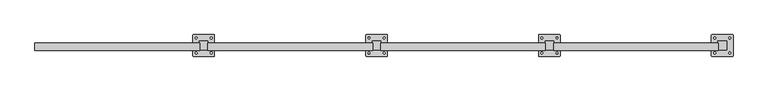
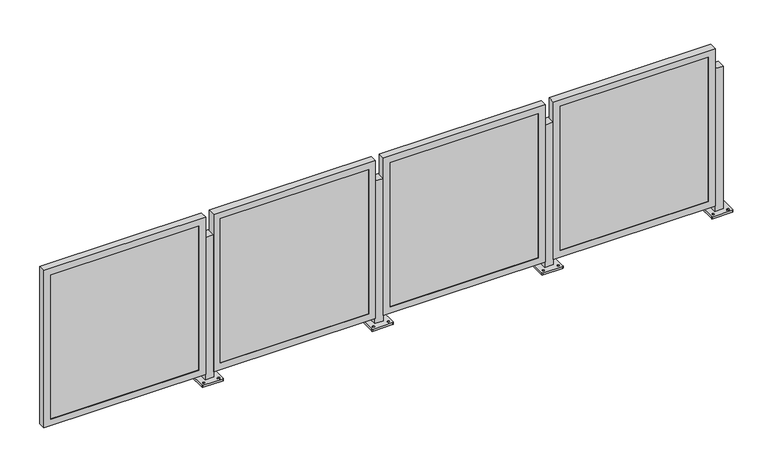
"""IFC4 building model written with IfcOpenShell, lengths in millimetres: railing geometry, Railing - Amico Architectural - Perforated Railing - Crescent."""

from ifc_helpers import new_model, si_unit, frame, origin, place, context, project, spatial, polyline, circle_curve, outline, extrude, faceted_brep, source, transform, mapped, element, save
from ifc_brep_helpers import plane_surface, cylinder_surface, revolved_surface, advanced_brep


def railing_570395e1(model_context):
    return source(origin(), model_context, "Body", "SolidModel", [
        advanced_brep(
        [(-22903.9348337, -3793.9525624, 914.4), (-22903.9348337, -3844.7525624, 914.4), (-22853.1348337, -3844.7525624, 914.4), (-22853.1348337, -3793.9525624, 914.4), (-22942.0348339, -3879.6775213, 0.0), (-22942.0348339, -3759.0276034, 0.0), (-22938.8598057, -3755.8525752, 0.0), (-22818.2098617, -3755.8525752, 0.0), (-22815.0348335, -3759.0276034, 0.0), (-22815.0348335, -3879.6775213, 0.0), (-22818.2098617, -3882.8525495, 0.0), (-22938.8598057, -3882.8525495, 0.0), (-22922.9848212, -3869.358817, 0.0), (-22922.9848212, -3858.2463046, 0.0), (-22922.9848321, -3780.4588126, 0.0), (-22922.9848321, -3769.346331, 0.0), (-22834.0848203, -3869.3588155, 0.0), (-22834.0848203, -3858.2463048, 0.0), (-22834.0848312, -3780.4588111, 0.0), (-22834.0848312, -3769.3463313, 0.0), (-22903.9348337, -3793.9525624, 12.7), (-22903.9348337, -3844.7525624, 12.7), (-22853.1348337, -3844.7525624, 12.7), (-22853.1348337, -3793.9525624, 12.7), (-22942.0348339, -3879.6775213, 12.7), (-22938.8598057, -3882.8525495, 12.7), (-22818.2098617, -3882.8525495, 12.7), (-22815.0348335, -3879.6775213, 12.7), (-22815.0348335, -3759.0276034, 12.7), (-22818.2098617, -3755.8525752, 12.7), (-22938.8598057, -3755.8525752, 12.7), (-22942.0348339, -3759.0276034, 12.7), (-22922.9848212, -3869.358817, 12.7), (-22922.9848212, -3858.2463046, 12.7), (-22922.9848321, -3780.4588126, 12.7), (-22922.9848321, -3769.346331, 12.7), (-22834.0848203, -3869.3588155, 12.7), (-22834.0848203, -3858.2463048, 12.7), (-22834.0848312, -3780.4588111, 12.7), (-22834.0848312, -3769.3463313, 12.7)],
        [
            (0, 1),
            (1, 2),
            (2, 3),
            (3, 0),
            (4, 5),
            (5, 6, circle_curve(frame((-22938.8598057, -3759.0276034, 0.0), z_axis=(0.0, 0.0, -1.0), x_axis=(0.0, 1.0, 0.0)), 3.1750282)),
            (6, 7),
            (7, 8, circle_curve(frame((-22818.2098617, -3759.0276034, 0.0), z_axis=(0.0, 0.0, -1.0), x_axis=(0.0, 1.0, 0.0)), 3.1750282)),
            (8, 9),
            (9, 10, circle_curve(frame((-22818.2098617, -3879.6775213, 0.0), z_axis=(0.0, 0.0, -1.0), x_axis=(0.0, 1.0, 0.0)), 3.1750282)),
            (10, 11),
            (11, 4, circle_curve(frame((-22938.8598057, -3879.6775213, 0.0), z_axis=(0.0, 0.0, -1.0), x_axis=(0.0, 1.0, 0.0)), 3.1750282)),
            (12, 13, circle_curve(frame((-22922.9848212, -3863.8025608, 0.0), z_axis=(0.0, 0.0, 1.0), x_axis=(0.0, 1.0, 0.0)), 5.5562562)),
            (13, 12, circle_curve(frame((-22922.9848212, -3863.8025608, 0.0), z_axis=(0.0, 0.0, 1.0), x_axis=(0.0, 1.0, 0.0)), 5.5562562)),
            (14, 15, circle_curve(frame((-22922.9848321, -3774.9025718, 0.0), z_axis=(0.0, 0.0, 1.0), x_axis=(0.0, 1.0, 0.0)), 5.5562408)),
            (15, 14, circle_curve(frame((-22922.9848321, -3774.9025718, 0.0), z_axis=(0.0, 0.0, 1.0), x_axis=(0.0, 1.0, 0.0)), 5.5562408)),
            (16, 17, circle_curve(frame((-22834.0848203, -3863.8025601, 0.0), z_axis=(0.0, 0.0, 1.0), x_axis=(0.0, 1.0, 0.0)), 5.5562553)),
            (17, 16, circle_curve(frame((-22834.0848203, -3863.8025601, 0.0), z_axis=(0.0, 0.0, 1.0), x_axis=(0.0, 1.0, 0.0)), 5.5562553)),
            (18, 19, circle_curve(frame((-22834.0848312, -3774.9025712, 0.0), z_axis=(0.0, 0.0, 1.0), x_axis=(0.0, 1.0, 0.0)), 5.5562399)),
            (19, 18, circle_curve(frame((-22834.0848312, -3774.9025712, 0.0), z_axis=(0.0, 0.0, 1.0), x_axis=(0.0, 1.0, 0.0)), 5.5562399)),
            (0, 20),
            (20, 21),
            (21, 1),
            (21, 22),
            (22, 2),
            (22, 23),
            (23, 3),
            (23, 20),
            (24, 25, circle_curve(frame((-22938.8598057, -3879.6775213, 12.7), z_axis=(0.0, 0.0, 1.0), x_axis=(0.0, 1.0, 0.0)), 3.1750282)),
            (25, 26),
            (26, 27, circle_curve(frame((-22818.2098617, -3879.6775213, 12.7), z_axis=(0.0, 0.0, 1.0), x_axis=(0.0, 1.0, 0.0)), 3.1750282)),
            (27, 28),
            (28, 29, circle_curve(frame((-22818.2098617, -3759.0276034, 12.7), z_axis=(0.0, 0.0, 1.0), x_axis=(0.0, 1.0, 0.0)), 3.1750282)),
            (29, 30),
            (30, 31, circle_curve(frame((-22938.8598057, -3759.0276034, 12.7), z_axis=(0.0, 0.0, 1.0), x_axis=(0.0, 1.0, 0.0)), 3.1750282)),
            (31, 24),
            (32, 33, circle_curve(frame((-22922.9848212, -3863.8025608, 12.7), z_axis=(0.0, 0.0, -1.0), x_axis=(0.0, 1.0, 0.0)), 5.5562562)),
            (33, 32, circle_curve(frame((-22922.9848212, -3863.8025608, 12.7), z_axis=(0.0, 0.0, -1.0), x_axis=(0.0, 1.0, 0.0)), 5.5562562)),
            (34, 35, circle_curve(frame((-22922.9848321, -3774.9025718, 12.7), z_axis=(0.0, 0.0, -1.0), x_axis=(0.0, 1.0, 0.0)), 5.5562408)),
            (35, 34, circle_curve(frame((-22922.9848321, -3774.9025718, 12.7), z_axis=(0.0, 0.0, -1.0), x_axis=(0.0, 1.0, 0.0)), 5.5562408)),
            (36, 37, circle_curve(frame((-22834.0848203, -3863.8025601, 12.7), z_axis=(0.0, 0.0, -1.0), x_axis=(0.0, 1.0, 0.0)), 5.5562553)),
            (37, 36, circle_curve(frame((-22834.0848203, -3863.8025601, 12.7), z_axis=(0.0, 0.0, -1.0), x_axis=(0.0, 1.0, 0.0)), 5.5562553)),
            (38, 39, circle_curve(frame((-22834.0848312, -3774.9025712, 12.7), z_axis=(0.0, 0.0, -1.0), x_axis=(0.0, 1.0, 0.0)), 5.5562399)),
            (39, 38, circle_curve(frame((-22834.0848312, -3774.9025712, 12.7), z_axis=(0.0, 0.0, -1.0), x_axis=(0.0, 1.0, 0.0)), 5.5562399)),
            (24, 4),
            (11, 25),
            (10, 26),
            (9, 27),
            (8, 28),
            (7, 29),
            (6, 30),
            (5, 31),
            (32, 12),
            (13, 33),
            (34, 14),
            (15, 35),
            (36, 16),
            (17, 37),
            (38, 18),
            (19, 39),
        ],
        [
            plane_surface(frame((-22903.9348337, -3844.7525624, 914.4), z_axis=(0.0, 0.0, 1.0), x_axis=(0.0, -1.0, 0.0))),
            plane_surface(frame((-22903.9348337, -3844.7525624, 0.0), z_axis=(0.0, 0.0, -1.0), x_axis=(0.0, 1.0, 0.0))),
            plane_surface(frame((-22903.9348337, -3793.9525624, 914.4), z_axis=(-1.0, 0.0, 0.0), x_axis=(0.0, 0.0, -1.0))),
            plane_surface(frame((-22903.9348337, -3844.7525624, 914.4), z_axis=(0.0, -1.0, 0.0), x_axis=(0.0, 0.0, -1.0))),
            plane_surface(frame((-22853.1348337, -3844.7525624, 914.4), z_axis=(1.0, 0.0, 0.0), x_axis=(0.0, 0.0, -1.0))),
            plane_surface(frame((-22853.1348337, -3793.9525624, 914.4), z_axis=(0.0, 1.0, 0.0), x_axis=(0.0, 0.0, -1.0))),
            plane_surface(frame((-22938.8598057, -3876.5024932, 12.7), z_axis=(0.0, 0.0, 1.0), x_axis=(-1.0, 0.0, 0.0))),
            cylinder_surface(frame((-22938.8598057, -3879.6775213, 0.0), z_axis=(0.0, 0.0, 1.0), x_axis=(0.0, 1.0, 0.0)), 3.1750282),
            plane_surface(frame((-22938.8598057, -3882.8525495, 12.7), z_axis=(1.1945386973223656e-12, -1.0, 0.0), x_axis=(0.0, 0.0, -1.0))),
            cylinder_surface(frame((-22818.2098617, -3879.6775213, 0.0), z_axis=(0.0, 0.0, 1.0), x_axis=(0.0, 1.0, 0.0)), 3.1750282),
            plane_surface(frame((-22815.0348335, -3879.6775213, 12.7), z_axis=(1.0, 0.0, 0.0), x_axis=(0.0, 0.0, -1.0))),
            cylinder_surface(frame((-22818.2098617, -3759.0276034, 0.0), z_axis=(0.0, 0.0, 1.0), x_axis=(0.0, 1.0, 0.0)), 3.1750282),
            plane_surface(frame((-22818.2098617, -3755.8525752, 12.7), z_axis=(-1.1946088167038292e-12, 1.0, 0.0), x_axis=(0.0, 0.0, -1.0))),
            cylinder_surface(frame((-22938.8598057, -3759.0276034, 0.0), z_axis=(0.0, 0.0, 1.0), x_axis=(0.0, 1.0, 0.0)), 3.1750282),
            plane_surface(frame((-22942.0348339, -3759.0276034, 12.7), z_axis=(-1.0, 0.0, 0.0), x_axis=(0.0, 0.0, -1.0))),
            revolved_surface(polyline([(-22922.9848212, -3858.2463046, 0.0), (-22922.9848212, -3858.2463046, 12.7)]), (-22922.9848212, -3863.8025608, 0.0), (0.0, 0.0, -1.0)),
            revolved_surface(polyline([(-22922.9848321, -3769.3463309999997, 0.0), (-22922.9848321, -3769.3463309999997, 12.7)]), (-22922.9848321, -3774.9025718, 0.0), (0.0, 0.0, -1.0)),
            revolved_surface(polyline([(-22834.0848203, -3858.2463048, 0.0), (-22834.0848203, -3858.2463048, 12.7)]), (-22834.0848203, -3863.8025601, 0.0), (0.0, 0.0, -1.0)),
            revolved_surface(polyline([(-22834.0848312, -3769.3463312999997, 0.0), (-22834.0848312, -3769.3463312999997, 12.7)]), (-22834.0848312, -3774.9025712, 0.0), (0.0, 0.0, -1.0)),
        ],
        [
            (0, [[1, 2, 3, 4]]),
            (1, [[5, 6, 7, 8, 9, 10, 11, 12], [13, 14], [15, 16], [17, 18], [19, 20]]),
            (2, [[-1, 21, 22, 23]]),
            (3, [[-2, -23, 24, 25]]),
            (4, [[-3, -25, 26, 27]]),
            (5, [[-4, -27, 28, -21]]),
            (6, [[29, 30, 31, 32, 33, 34, 35, 36], [-22, -28, -26, -24], [37, 38], [39, 40], [41, 42], [43, 44]]),
            (7, [[-29, 45, -12, 46]]),
            (8, [[-30, -46, -11, 47]]),
            (9, [[-31, -47, -10, 48]]),
            (10, [[-32, -48, -9, 49]]),
            (11, [[-33, -49, -8, 50]]),
            (12, [[-34, -50, -7, 51]]),
            (13, [[-35, -51, -6, 52]]),
            (14, [[-36, -52, -5, -45]]),
            (15, [[-37, 53, -14, 54]]),
            (15, [[-38, -54, -13, -53]]),
            (16, [[-39, 55, -16, 56]]),
            (16, [[-40, -56, -15, -55]]),
            (17, [[-41, 57, -18, 58]]),
            (17, [[-42, -58, -17, -57]]),
            (18, [[-43, 59, -20, 60]]),
            (18, [[-44, -60, -19, -59]]),
        ],
    ),
        faceted_brep([(-23870.3392871, -3847.4957624, 47.625), (-22901.9642871, -3847.4957624, 47.625), (-22901.9642871, -3847.4957624, 1044.575), (-23870.3392871, -3847.4957624, 1044.575), (-23829.0642871, -3847.4957624, 1003.3), (-22943.2392871, -3847.4957624, 1003.3), (-22943.2392871, -3847.4957624, 88.9), (-23829.0642871, -3847.4957624, 88.9), (-23829.0642871, -3844.7525624, 1003.3), (-23829.0642871, -3844.7525624, 88.9), (-23870.3392871, -3803.6224658, 1044.575), (-23870.3392871, -3803.6224658, 47.625), (-23867.1642871, -3803.6224658, 1041.4), (-23867.1642871, -3844.7525624, 1041.4), (-23867.1642871, -3844.7525624, 50.8), (-23867.1642871, -3803.6224658, 50.8), (-22943.2392871, -3844.7525624, 88.9), (-22901.9642871, -3803.6224658, 47.625), (-22905.1392871, -3844.7525624, 50.8), (-22905.1392871, -3803.6224658, 50.8), (-22943.2392871, -3844.7525624, 1003.3), (-22901.9642871, -3803.6224658, 1044.575), (-22905.1392871, -3844.7525624, 1041.4), (-22905.1392871, -3803.6224658, 1041.4)], [[[0, 1, 2, 3], [4, 5, 6, 7]], [[8, 4, 7, 9]], [[3, 10, 11, 0]], [[12, 13, 14, 15]], [[9, 7, 6, 16]], [[0, 11, 17, 1]], [[15, 14, 18, 19]], [[16, 6, 5, 20]], [[1, 17, 21, 2]], [[19, 18, 22, 23]], [[20, 5, 4, 8]], [[10, 21, 17, 11], [15, 19, 23, 12]], [[2, 21, 10, 3]], [[13, 22, 18, 14], [9, 16, 20, 8]], [[23, 22, 13, 12]]]),
        extrude(outline(polyline([(-23867.1642871, -3835.2275624), (-22905.1392871, -3835.2275624), (-22905.1392871, -3844.7525624), (-23867.1642871, -3844.7525624), (-23867.1642871, -3835.2275624)])), frame((0.0, 0.0, 50.8), z_axis=(0.0, 0.0, 1.0), x_axis=(1.0, 0.0, 0.0)), (0.0, 0.0, 1.0), 990.6),
        advanced_brep(
        [(-23919.9348337, -3793.9525624, 914.4), (-23919.9348337, -3844.7525624, 914.4), (-23869.1348337, -3844.7525624, 914.4), (-23869.1348337, -3793.9525624, 914.4), (-23958.0348339, -3879.6775213, 0.0), (-23958.0348339, -3759.0276034, 0.0), (-23954.8598057, -3755.8525752, 0.0), (-23834.2098617, -3755.8525752, 0.0), (-23831.0348335, -3759.0276034, 0.0), (-23831.0348335, -3879.6775213, 0.0), (-23834.2098617, -3882.8525495, 0.0), (-23954.8598057, -3882.8525495, 0.0), (-23938.9848212, -3869.358817, 0.0), (-23938.9848212, -3858.2463046, 0.0), (-23938.9848321, -3780.4588126, 0.0), (-23938.9848321, -3769.346331, 0.0), (-23850.0848203, -3869.3588155, 0.0), (-23850.0848203, -3858.2463048, 0.0), (-23850.0848312, -3780.4588111, 0.0), (-23850.0848312, -3769.3463313, 0.0), (-23919.9348337, -3793.9525624, 12.7), (-23919.9348337, -3844.7525624, 12.7), (-23869.1348337, -3844.7525624, 12.7), (-23869.1348337, -3793.9525624, 12.7), (-23958.0348339, -3879.6775213, 12.7), (-23954.8598057, -3882.8525495, 12.7), (-23834.2098617, -3882.8525495, 12.7), (-23831.0348335, -3879.6775213, 12.7), (-23831.0348335, -3759.0276034, 12.7), (-23834.2098617, -3755.8525752, 12.7), (-23954.8598057, -3755.8525752, 12.7), (-23958.0348339, -3759.0276034, 12.7), (-23938.9848212, -3869.358817, 12.7), (-23938.9848212, -3858.2463046, 12.7), (-23938.9848321, -3780.4588126, 12.7), (-23938.9848321, -3769.346331, 12.7), (-23850.0848203, -3869.3588155, 12.7), (-23850.0848203, -3858.2463048, 12.7), (-23850.0848312, -3780.4588111, 12.7), (-23850.0848312, -3769.3463313, 12.7)],
        [
            (0, 1),
            (1, 2),
            (2, 3),
            (3, 0),
            (4, 5),
            (5, 6, circle_curve(frame((-23954.8598057, -3759.0276034, 0.0), z_axis=(0.0, 0.0, -1.0), x_axis=(0.0, 1.0, 0.0)), 3.1750282)),
            (6, 7),
            (7, 8, circle_curve(frame((-23834.2098617, -3759.0276034, 0.0), z_axis=(0.0, 0.0, -1.0), x_axis=(0.0, 1.0, 0.0)), 3.1750282)),
            (8, 9),
            (9, 10, circle_curve(frame((-23834.2098617, -3879.6775213, 0.0), z_axis=(0.0, 0.0, -1.0), x_axis=(0.0, 1.0, 0.0)), 3.1750282)),
            (10, 11),
            (11, 4, circle_curve(frame((-23954.8598057, -3879.6775213, 0.0), z_axis=(0.0, 0.0, -1.0), x_axis=(0.0, 1.0, 0.0)), 3.1750282)),
            (12, 13, circle_curve(frame((-23938.9848212, -3863.8025608, 0.0), z_axis=(0.0, 0.0, 1.0), x_axis=(0.0, 1.0, 0.0)), 5.5562562)),
            (13, 12, circle_curve(frame((-23938.9848212, -3863.8025608, 0.0), z_axis=(0.0, 0.0, 1.0), x_axis=(0.0, 1.0, 0.0)), 5.5562562)),
            (14, 15, circle_curve(frame((-23938.9848321, -3774.9025718, 0.0), z_axis=(0.0, 0.0, 1.0), x_axis=(0.0, 1.0, 0.0)), 5.5562408)),
            (15, 14, circle_curve(frame((-23938.9848321, -3774.9025718, 0.0), z_axis=(0.0, 0.0, 1.0), x_axis=(0.0, 1.0, 0.0)), 5.5562408)),
            (16, 17, circle_curve(frame((-23850.0848203, -3863.8025601, 0.0), z_axis=(0.0, 0.0, 1.0), x_axis=(0.0, 1.0, 0.0)), 5.5562553)),
            (17, 16, circle_curve(frame((-23850.0848203, -3863.8025601, 0.0), z_axis=(0.0, 0.0, 1.0), x_axis=(0.0, 1.0, 0.0)), 5.5562553)),
            (18, 19, circle_curve(frame((-23850.0848312, -3774.9025712, 0.0), z_axis=(0.0, 0.0, 1.0), x_axis=(0.0, 1.0, 0.0)), 5.5562399)),
            (19, 18, circle_curve(frame((-23850.0848312, -3774.9025712, 0.0), z_axis=(0.0, 0.0, 1.0), x_axis=(0.0, 1.0, 0.0)), 5.5562399)),
            (0, 20),
            (20, 21),
            (21, 1),
            (21, 22),
            (22, 2),
            (22, 23),
            (23, 3),
            (23, 20),
            (24, 25, circle_curve(frame((-23954.8598057, -3879.6775213, 12.7), z_axis=(0.0, 0.0, 1.0), x_axis=(0.0, 1.0, 0.0)), 3.1750282)),
            (25, 26),
            (26, 27, circle_curve(frame((-23834.2098617, -3879.6775213, 12.7), z_axis=(0.0, 0.0, 1.0), x_axis=(0.0, 1.0, 0.0)), 3.1750282)),
            (27, 28),
            (28, 29, circle_curve(frame((-23834.2098617, -3759.0276034, 12.7), z_axis=(0.0, 0.0, 1.0), x_axis=(0.0, 1.0, 0.0)), 3.1750282)),
            (29, 30),
            (30, 31, circle_curve(frame((-23954.8598057, -3759.0276034, 12.7), z_axis=(0.0, 0.0, 1.0), x_axis=(0.0, 1.0, 0.0)), 3.1750282)),
            (31, 24),
            (32, 33, circle_curve(frame((-23938.9848212, -3863.8025608, 12.7), z_axis=(0.0, 0.0, -1.0), x_axis=(0.0, 1.0, 0.0)), 5.5562562)),
            (33, 32, circle_curve(frame((-23938.9848212, -3863.8025608, 12.7), z_axis=(0.0, 0.0, -1.0), x_axis=(0.0, 1.0, 0.0)), 5.5562562)),
            (34, 35, circle_curve(frame((-23938.9848321, -3774.9025718, 12.7), z_axis=(0.0, 0.0, -1.0), x_axis=(0.0, 1.0, 0.0)), 5.5562408)),
            (35, 34, circle_curve(frame((-23938.9848321, -3774.9025718, 12.7), z_axis=(0.0, 0.0, -1.0), x_axis=(0.0, 1.0, 0.0)), 5.5562408)),
            (36, 37, circle_curve(frame((-23850.0848203, -3863.8025601, 12.7), z_axis=(0.0, 0.0, -1.0), x_axis=(0.0, 1.0, 0.0)), 5.5562553)),
            (37, 36, circle_curve(frame((-23850.0848203, -3863.8025601, 12.7), z_axis=(0.0, 0.0, -1.0), x_axis=(0.0, 1.0, 0.0)), 5.5562553)),
            (38, 39, circle_curve(frame((-23850.0848312, -3774.9025712, 12.7), z_axis=(0.0, 0.0, -1.0), x_axis=(0.0, 1.0, 0.0)), 5.5562399)),
            (39, 38, circle_curve(frame((-23850.0848312, -3774.9025712, 12.7), z_axis=(0.0, 0.0, -1.0), x_axis=(0.0, 1.0, 0.0)), 5.5562399)),
            (24, 4),
            (11, 25),
            (10, 26),
            (9, 27),
            (8, 28),
            (7, 29),
            (6, 30),
            (5, 31),
            (32, 12),
            (13, 33),
            (34, 14),
            (15, 35),
            (36, 16),
            (17, 37),
            (38, 18),
            (19, 39),
        ],
        [
            plane_surface(frame((-23919.9348337, -3844.7525624, 914.4), z_axis=(0.0, 0.0, 1.0), x_axis=(0.0, -1.0, 0.0))),
            plane_surface(frame((-23919.9348337, -3844.7525624, 0.0), z_axis=(0.0, 0.0, -1.0), x_axis=(0.0, 1.0, 0.0))),
            plane_surface(frame((-23919.9348337, -3793.9525624, 914.4), z_axis=(-1.0, 0.0, 0.0), x_axis=(0.0, 0.0, -1.0))),
            plane_surface(frame((-23919.9348337, -3844.7525624, 914.4), z_axis=(0.0, -1.0, 0.0), x_axis=(0.0, 0.0, -1.0))),
            plane_surface(frame((-23869.1348337, -3844.7525624, 914.4), z_axis=(1.0, 0.0, 0.0), x_axis=(0.0, 0.0, -1.0))),
            plane_surface(frame((-23869.1348337, -3793.9525624, 914.4), z_axis=(0.0, 1.0, 0.0), x_axis=(0.0, 0.0, -1.0))),
            plane_surface(frame((-23954.8598057, -3876.5024932, 12.7), z_axis=(0.0, 0.0, 1.0), x_axis=(-1.0, 0.0, 0.0))),
            cylinder_surface(frame((-23954.8598057, -3879.6775213, 0.0), z_axis=(0.0, 0.0, 1.0), x_axis=(0.0, 1.0, 0.0)), 3.1750282),
            plane_surface(frame((-23954.8598057, -3882.8525495, 12.7), z_axis=(1.1945386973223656e-12, -1.0, 0.0), x_axis=(0.0, 0.0, -1.0))),
            cylinder_surface(frame((-23834.2098617, -3879.6775213, 0.0), z_axis=(0.0, 0.0, 1.0), x_axis=(0.0, 1.0, 0.0)), 3.1750282),
            plane_surface(frame((-23831.0348335, -3879.6775213, 12.7), z_axis=(1.0, 0.0, 0.0), x_axis=(0.0, 0.0, -1.0))),
            cylinder_surface(frame((-23834.2098617, -3759.0276034, 0.0), z_axis=(0.0, 0.0, 1.0), x_axis=(0.0, 1.0, 0.0)), 3.1750282),
            plane_surface(frame((-23834.2098617, -3755.8525752, 12.7), z_axis=(-1.1946088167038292e-12, 1.0, 0.0), x_axis=(0.0, 0.0, -1.0))),
            cylinder_surface(frame((-23954.8598057, -3759.0276034, 0.0), z_axis=(0.0, 0.0, 1.0), x_axis=(0.0, 1.0, 0.0)), 3.1750282),
            plane_surface(frame((-23958.0348339, -3759.0276034, 12.7), z_axis=(-1.0, 0.0, 0.0), x_axis=(0.0, 0.0, -1.0))),
            revolved_surface(polyline([(-23938.9848212, -3858.2463046, 0.0), (-23938.9848212, -3858.2463046, 12.7)]), (-23938.9848212, -3863.8025608, 0.0), (0.0, 0.0, -1.0)),
            revolved_surface(polyline([(-23938.9848321, -3769.3463309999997, 0.0), (-23938.9848321, -3769.3463309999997, 12.7)]), (-23938.9848321, -3774.9025718, 0.0), (0.0, 0.0, -1.0)),
            revolved_surface(polyline([(-23850.0848203, -3858.2463048, 0.0), (-23850.0848203, -3858.2463048, 12.7)]), (-23850.0848203, -3863.8025601, 0.0), (0.0, 0.0, -1.0)),
            revolved_surface(polyline([(-23850.0848312, -3769.3463312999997, 0.0), (-23850.0848312, -3769.3463312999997, 12.7)]), (-23850.0848312, -3774.9025712, 0.0), (0.0, 0.0, -1.0)),
        ],
        [
            (0, [[1, 2, 3, 4]]),
            (1, [[5, 6, 7, 8, 9, 10, 11, 12], [13, 14], [15, 16], [17, 18], [19, 20]]),
            (2, [[-1, 21, 22, 23]]),
            (3, [[-2, -23, 24, 25]]),
            (4, [[-3, -25, 26, 27]]),
            (5, [[-4, -27, 28, -21]]),
            (6, [[29, 30, 31, 32, 33, 34, 35, 36], [-22, -28, -26, -24], [37, 38], [39, 40], [41, 42], [43, 44]]),
            (7, [[-29, 45, -12, 46]]),
            (8, [[-30, -46, -11, 47]]),
            (9, [[-31, -47, -10, 48]]),
            (10, [[-32, -48, -9, 49]]),
            (11, [[-33, -49, -8, 50]]),
            (12, [[-34, -50, -7, 51]]),
            (13, [[-35, -51, -6, 52]]),
            (14, [[-36, -52, -5, -45]]),
            (15, [[-37, 53, -14, 54]]),
            (15, [[-38, -54, -13, -53]]),
            (16, [[-39, 55, -16, 56]]),
            (16, [[-40, -56, -15, -55]]),
            (17, [[-41, 57, -18, 58]]),
            (17, [[-42, -58, -17, -57]]),
            (18, [[-43, 59, -20, 60]]),
            (18, [[-44, -60, -19, -59]]),
        ],
    ),
        faceted_brep([(-24886.3392871, -3847.4957624, 47.625), (-23917.9642871, -3847.4957624, 47.625), (-23917.9642871, -3847.4957624, 1044.575), (-24886.3392871, -3847.4957624, 1044.575), (-24845.0642871, -3847.4957624, 1003.3), (-23959.2392871, -3847.4957624, 1003.3), (-23959.2392871, -3847.4957624, 88.9), (-24845.0642871, -3847.4957624, 88.9), (-24845.0642871, -3844.7525624, 1003.3), (-24845.0642871, -3844.7525624, 88.9), (-24886.3392871, -3803.6224658, 1044.575), (-24886.3392871, -3803.6224658, 47.625), (-24883.1642871, -3803.6224658, 1041.4), (-24883.1642871, -3844.7525624, 1041.4), (-24883.1642871, -3844.7525624, 50.8), (-24883.1642871, -3803.6224658, 50.8), (-23959.2392871, -3844.7525624, 88.9), (-23917.9642871, -3803.6224658, 47.625), (-23921.1392871, -3844.7525624, 50.8), (-23921.1392871, -3803.6224658, 50.8), (-23959.2392871, -3844.7525624, 1003.3), (-23917.9642871, -3803.6224658, 1044.575), (-23921.1392871, -3844.7525624, 1041.4), (-23921.1392871, -3803.6224658, 1041.4)], [[[0, 1, 2, 3], [4, 5, 6, 7]], [[8, 4, 7, 9]], [[3, 10, 11, 0]], [[12, 13, 14, 15]], [[9, 7, 6, 16]], [[0, 11, 17, 1]], [[15, 14, 18, 19]], [[16, 6, 5, 20]], [[1, 17, 21, 2]], [[19, 18, 22, 23]], [[20, 5, 4, 8]], [[10, 21, 17, 11], [15, 19, 23, 12]], [[2, 21, 10, 3]], [[13, 22, 18, 14], [9, 16, 20, 8]], [[23, 22, 13, 12]]]),
        extrude(outline(polyline([(-24883.1642871, -3835.2275624), (-23921.1392871, -3835.2275624), (-23921.1392871, -3844.7525624), (-24883.1642871, -3844.7525624), (-24883.1642871, -3835.2275624)])), frame((0.0, 0.0, 50.8), z_axis=(0.0, 0.0, 1.0), x_axis=(1.0, 0.0, 0.0)), (0.0, 0.0, 1.0), 990.6),
        advanced_brep(
        [(-24935.9348337, -3793.9525624, 914.4), (-24935.9348337, -3844.7525624, 914.4), (-24885.1348337, -3844.7525624, 914.4), (-24885.1348337, -3793.9525624, 914.4), (-24974.0348339, -3879.6775213, 0.0), (-24974.0348339, -3759.0276034, 0.0), (-24970.8598057, -3755.8525752, 0.0), (-24850.2098617, -3755.8525752, 0.0), (-24847.0348335, -3759.0276034, 0.0), (-24847.0348335, -3879.6775213, 0.0), (-24850.2098617, -3882.8525495, 0.0), (-24970.8598057, -3882.8525495, 0.0), (-24954.9848212, -3869.358817, 0.0), (-24954.9848212, -3858.2463046, 0.0), (-24954.9848321, -3780.4588126, 0.0), (-24954.9848321, -3769.346331, 0.0), (-24866.0848203, -3869.3588155, 0.0), (-24866.0848203, -3858.2463048, 0.0), (-24866.0848312, -3780.4588111, 0.0), (-24866.0848312, -3769.3463313, 0.0), (-24935.9348337, -3793.9525624, 12.7), (-24935.9348337, -3844.7525624, 12.7), (-24885.1348337, -3844.7525624, 12.7), (-24885.1348337, -3793.9525624, 12.7), (-24974.0348339, -3879.6775213, 12.7), (-24970.8598057, -3882.8525495, 12.7), (-24850.2098617, -3882.8525495, 12.7), (-24847.0348335, -3879.6775213, 12.7), (-24847.0348335, -3759.0276034, 12.7), (-24850.2098617, -3755.8525752, 12.7), (-24970.8598057, -3755.8525752, 12.7), (-24974.0348339, -3759.0276034, 12.7), (-24954.9848212, -3869.358817, 12.7), (-24954.9848212, -3858.2463046, 12.7), (-24954.9848321, -3780.4588126, 12.7), (-24954.9848321, -3769.346331, 12.7), (-24866.0848203, -3869.3588155, 12.7), (-24866.0848203, -3858.2463048, 12.7), (-24866.0848312, -3780.4588111, 12.7), (-24866.0848312, -3769.3463313, 12.7)],
        [
            (0, 1),
            (1, 2),
            (2, 3),
            (3, 0),
            (4, 5),
            (5, 6, circle_curve(frame((-24970.8598057, -3759.0276034, 0.0), z_axis=(0.0, 0.0, -1.0), x_axis=(0.0, 1.0, 0.0)), 3.1750282)),
            (6, 7),
            (7, 8, circle_curve(frame((-24850.2098617, -3759.0276034, 0.0), z_axis=(0.0, 0.0, -1.0), x_axis=(0.0, 1.0, 0.0)), 3.1750282)),
            (8, 9),
            (9, 10, circle_curve(frame((-24850.2098617, -3879.6775213, 0.0), z_axis=(0.0, 0.0, -1.0), x_axis=(0.0, 1.0, 0.0)), 3.1750282)),
            (10, 11),
            (11, 4, circle_curve(frame((-24970.8598057, -3879.6775213, 0.0), z_axis=(0.0, 0.0, -1.0), x_axis=(0.0, 1.0, 0.0)), 3.1750282)),
            (12, 13, circle_curve(frame((-24954.9848212, -3863.8025608, 0.0), z_axis=(0.0, 0.0, 1.0), x_axis=(0.0, 1.0, 0.0)), 5.5562562)),
            (13, 12, circle_curve(frame((-24954.9848212, -3863.8025608, 0.0), z_axis=(0.0, 0.0, 1.0), x_axis=(0.0, 1.0, 0.0)), 5.5562562)),
            (14, 15, circle_curve(frame((-24954.9848321, -3774.9025718, 0.0), z_axis=(0.0, 0.0, 1.0), x_axis=(0.0, 1.0, 0.0)), 5.5562408)),
            (15, 14, circle_curve(frame((-24954.9848321, -3774.9025718, 0.0), z_axis=(0.0, 0.0, 1.0), x_axis=(0.0, 1.0, 0.0)), 5.5562408)),
            (16, 17, circle_curve(frame((-24866.0848203, -3863.8025601, 0.0), z_axis=(0.0, 0.0, 1.0), x_axis=(0.0, 1.0, 0.0)), 5.5562553)),
            (17, 16, circle_curve(frame((-24866.0848203, -3863.8025601, 0.0), z_axis=(0.0, 0.0, 1.0), x_axis=(0.0, 1.0, 0.0)), 5.5562553)),
            (18, 19, circle_curve(frame((-24866.0848312, -3774.9025712, 0.0), z_axis=(0.0, 0.0, 1.0), x_axis=(0.0, 1.0, 0.0)), 5.5562399)),
            (19, 18, circle_curve(frame((-24866.0848312, -3774.9025712, 0.0), z_axis=(0.0, 0.0, 1.0), x_axis=(0.0, 1.0, 0.0)), 5.5562399)),
            (0, 20),
            (20, 21),
            (21, 1),
            (21, 22),
            (22, 2),
            (22, 23),
            (23, 3),
            (23, 20),
            (24, 25, circle_curve(frame((-24970.8598057, -3879.6775213, 12.7), z_axis=(0.0, 0.0, 1.0), x_axis=(0.0, 1.0, 0.0)), 3.1750282)),
            (25, 26),
            (26, 27, circle_curve(frame((-24850.2098617, -3879.6775213, 12.7), z_axis=(0.0, 0.0, 1.0), x_axis=(0.0, 1.0, 0.0)), 3.1750282)),
            (27, 28),
            (28, 29, circle_curve(frame((-24850.2098617, -3759.0276034, 12.7), z_axis=(0.0, 0.0, 1.0), x_axis=(0.0, 1.0, 0.0)), 3.1750282)),
            (29, 30),
            (30, 31, circle_curve(frame((-24970.8598057, -3759.0276034, 12.7), z_axis=(0.0, 0.0, 1.0), x_axis=(0.0, 1.0, 0.0)), 3.1750282)),
            (31, 24),
            (32, 33, circle_curve(frame((-24954.9848212, -3863.8025608, 12.7), z_axis=(0.0, 0.0, -1.0), x_axis=(0.0, 1.0, 0.0)), 5.5562562)),
            (33, 32, circle_curve(frame((-24954.9848212, -3863.8025608, 12.7), z_axis=(0.0, 0.0, -1.0), x_axis=(0.0, 1.0, 0.0)), 5.5562562)),
            (34, 35, circle_curve(frame((-24954.9848321, -3774.9025718, 12.7), z_axis=(0.0, 0.0, -1.0), x_axis=(0.0, 1.0, 0.0)), 5.5562408)),
            (35, 34, circle_curve(frame((-24954.9848321, -3774.9025718, 12.7), z_axis=(0.0, 0.0, -1.0), x_axis=(0.0, 1.0, 0.0)), 5.5562408)),
            (36, 37, circle_curve(frame((-24866.0848203, -3863.8025601, 12.7), z_axis=(0.0, 0.0, -1.0), x_axis=(0.0, 1.0, 0.0)), 5.5562553)),
            (37, 36, circle_curve(frame((-24866.0848203, -3863.8025601, 12.7), z_axis=(0.0, 0.0, -1.0), x_axis=(0.0, 1.0, 0.0)), 5.5562553)),
            (38, 39, circle_curve(frame((-24866.0848312, -3774.9025712, 12.7), z_axis=(0.0, 0.0, -1.0), x_axis=(0.0, 1.0, 0.0)), 5.5562399)),
            (39, 38, circle_curve(frame((-24866.0848312, -3774.9025712, 12.7), z_axis=(0.0, 0.0, -1.0), x_axis=(0.0, 1.0, 0.0)), 5.5562399)),
            (24, 4),
            (11, 25),
            (10, 26),
            (9, 27),
            (8, 28),
            (7, 29),
            (6, 30),
            (5, 31),
            (32, 12),
            (13, 33),
            (34, 14),
            (15, 35),
            (36, 16),
            (17, 37),
            (38, 18),
            (19, 39),
        ],
        [
            plane_surface(frame((-24935.9348337, -3844.7525624, 914.4), z_axis=(0.0, 0.0, 1.0), x_axis=(0.0, -1.0, 0.0))),
            plane_surface(frame((-24935.9348337, -3844.7525624, 0.0), z_axis=(0.0, 0.0, -1.0), x_axis=(0.0, 1.0, 0.0))),
            plane_surface(frame((-24935.9348337, -3793.9525624, 914.4), z_axis=(-1.0, 0.0, 0.0), x_axis=(0.0, 0.0, -1.0))),
            plane_surface(frame((-24935.9348337, -3844.7525624, 914.4), z_axis=(0.0, -1.0, 0.0), x_axis=(0.0, 0.0, -1.0))),
            plane_surface(frame((-24885.1348337, -3844.7525624, 914.4), z_axis=(1.0, 0.0, 0.0), x_axis=(0.0, 0.0, -1.0))),
            plane_surface(frame((-24885.1348337, -3793.9525624, 914.4), z_axis=(0.0, 1.0, 0.0), x_axis=(0.0, 0.0, -1.0))),
            plane_surface(frame((-24970.8598057, -3876.5024932, 12.7), z_axis=(0.0, 0.0, 1.0), x_axis=(-1.0, 0.0, 0.0))),
            cylinder_surface(frame((-24970.8598057, -3879.6775213, 0.0), z_axis=(0.0, 0.0, 1.0), x_axis=(0.0, 1.0, 0.0)), 3.1750282),
            plane_surface(frame((-24970.8598057, -3882.8525495, 12.7), z_axis=(1.1945386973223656e-12, -1.0, 0.0), x_axis=(0.0, 0.0, -1.0))),
            cylinder_surface(frame((-24850.2098617, -3879.6775213, 0.0), z_axis=(0.0, 0.0, 1.0), x_axis=(0.0, 1.0, 0.0)), 3.1750282),
            plane_surface(frame((-24847.0348335, -3879.6775213, 12.7), z_axis=(1.0, 0.0, 0.0), x_axis=(0.0, 0.0, -1.0))),
            cylinder_surface(frame((-24850.2098617, -3759.0276034, 0.0), z_axis=(0.0, 0.0, 1.0), x_axis=(0.0, 1.0, 0.0)), 3.1750282),
            plane_surface(frame((-24850.2098617, -3755.8525752, 12.7), z_axis=(-1.1946088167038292e-12, 1.0, 0.0), x_axis=(0.0, 0.0, -1.0))),
            cylinder_surface(frame((-24970.8598057, -3759.0276034, 0.0), z_axis=(0.0, 0.0, 1.0), x_axis=(0.0, 1.0, 0.0)), 3.1750282),
            plane_surface(frame((-24974.0348339, -3759.0276034, 12.7), z_axis=(-1.0, 0.0, 0.0), x_axis=(0.0, 0.0, -1.0))),
            revolved_surface(polyline([(-24954.9848212, -3858.2463046, 0.0), (-24954.9848212, -3858.2463046, 12.7)]), (-24954.9848212, -3863.8025608, 0.0), (0.0, 0.0, -1.0)),
            revolved_surface(polyline([(-24954.9848321, -3769.3463309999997, 0.0), (-24954.9848321, -3769.3463309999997, 12.7)]), (-24954.9848321, -3774.9025718, 0.0), (0.0, 0.0, -1.0)),
            revolved_surface(polyline([(-24866.0848203, -3858.2463048, 0.0), (-24866.0848203, -3858.2463048, 12.7)]), (-24866.0848203, -3863.8025601, 0.0), (0.0, 0.0, -1.0)),
            revolved_surface(polyline([(-24866.0848312, -3769.3463312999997, 0.0), (-24866.0848312, -3769.3463312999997, 12.7)]), (-24866.0848312, -3774.9025712, 0.0), (0.0, 0.0, -1.0)),
        ],
        [
            (0, [[1, 2, 3, 4]]),
            (1, [[5, 6, 7, 8, 9, 10, 11, 12], [13, 14], [15, 16], [17, 18], [19, 20]]),
            (2, [[-1, 21, 22, 23]]),
            (3, [[-2, -23, 24, 25]]),
            (4, [[-3, -25, 26, 27]]),
            (5, [[-4, -27, 28, -21]]),
            (6, [[29, 30, 31, 32, 33, 34, 35, 36], [-22, -28, -26, -24], [37, 38], [39, 40], [41, 42], [43, 44]]),
            (7, [[-29, 45, -12, 46]]),
            (8, [[-30, -46, -11, 47]]),
            (9, [[-31, -47, -10, 48]]),
            (10, [[-32, -48, -9, 49]]),
            (11, [[-33, -49, -8, 50]]),
            (12, [[-34, -50, -7, 51]]),
            (13, [[-35, -51, -6, 52]]),
            (14, [[-36, -52, -5, -45]]),
            (15, [[-37, 53, -14, 54]]),
            (15, [[-38, -54, -13, -53]]),
            (16, [[-39, 55, -16, 56]]),
            (16, [[-40, -56, -15, -55]]),
            (17, [[-41, 57, -18, 58]]),
            (17, [[-42, -58, -17, -57]]),
            (18, [[-43, 59, -20, 60]]),
            (18, [[-44, -60, -19, -59]]),
        ],
    ),
        faceted_brep([(-25902.3392871, -3847.4957624, 47.625), (-24933.9642871, -3847.4957624, 47.625), (-24933.9642871, -3847.4957624, 1044.575), (-25902.3392871, -3847.4957624, 1044.575), (-25861.0642871, -3847.4957624, 1003.3), (-24975.2392871, -3847.4957624, 1003.3), (-24975.2392871, -3847.4957624, 88.9), (-25861.0642871, -3847.4957624, 88.9), (-25861.0642871, -3844.7525624, 1003.3), (-25861.0642871, -3844.7525624, 88.9), (-25902.3392871, -3803.6224658, 1044.575), (-25902.3392871, -3803.6224658, 47.625), (-25899.1642871, -3803.6224658, 1041.4), (-25899.1642871, -3844.7525624, 1041.4), (-25899.1642871, -3844.7525624, 50.8), (-25899.1642871, -3803.6224658, 50.8), (-24975.2392871, -3844.7525624, 88.9), (-24933.9642871, -3803.6224658, 47.625), (-24937.1392871, -3844.7525624, 50.8), (-24937.1392871, -3803.6224658, 50.8), (-24975.2392871, -3844.7525624, 1003.3), (-24933.9642871, -3803.6224658, 1044.575), (-24937.1392871, -3844.7525624, 1041.4), (-24937.1392871, -3803.6224658, 1041.4)], [[[0, 1, 2, 3], [4, 5, 6, 7]], [[8, 4, 7, 9]], [[3, 10, 11, 0]], [[12, 13, 14, 15]], [[9, 7, 6, 16]], [[0, 11, 17, 1]], [[15, 14, 18, 19]], [[16, 6, 5, 20]], [[1, 17, 21, 2]], [[19, 18, 22, 23]], [[20, 5, 4, 8]], [[10, 21, 17, 11], [15, 19, 23, 12]], [[2, 21, 10, 3]], [[13, 22, 18, 14], [9, 16, 20, 8]], [[23, 22, 13, 12]]]),
        extrude(outline(polyline([(-25899.1642871, -3835.2275624), (-24937.1392871, -3835.2275624), (-24937.1392871, -3844.7525624), (-25899.1642871, -3844.7525624), (-25899.1642871, -3835.2275624)])), frame((0.0, 0.0, 50.8), z_axis=(0.0, 0.0, 1.0), x_axis=(1.0, 0.0, 0.0)), (0.0, 0.0, 1.0), 990.6),
        advanced_brep(
        [(-25951.9348337, -3793.9525624, 914.4), (-25951.9348337, -3844.7525624, 914.4), (-25901.1348337, -3844.7525624, 914.4), (-25901.1348337, -3793.9525624, 914.4), (-25990.0348339, -3879.6775213, 0.0), (-25990.0348339, -3759.0276034, 0.0), (-25986.8598057, -3755.8525752, 0.0), (-25866.2098617, -3755.8525752, 0.0), (-25863.0348335, -3759.0276034, 0.0), (-25863.0348335, -3879.6775213, 0.0), (-25866.2098617, -3882.8525495, 0.0), (-25986.8598057, -3882.8525495, 0.0), (-25970.9848212, -3869.358817, 0.0), (-25970.9848212, -3858.2463046, 0.0), (-25970.9848321, -3780.4588126, 0.0), (-25970.9848321, -3769.346331, 0.0), (-25882.0848203, -3869.3588155, 0.0), (-25882.0848203, -3858.2463048, 0.0), (-25882.0848312, -3780.4588111, 0.0), (-25882.0848312, -3769.3463313, 0.0), (-25951.9348337, -3793.9525624, 12.7), (-25951.9348337, -3844.7525624, 12.7), (-25901.1348337, -3844.7525624, 12.7), (-25901.1348337, -3793.9525624, 12.7), (-25990.0348339, -3879.6775213, 12.7), (-25986.8598057, -3882.8525495, 12.7), (-25866.2098617, -3882.8525495, 12.7), (-25863.0348335, -3879.6775213, 12.7), (-25863.0348335, -3759.0276034, 12.7), (-25866.2098617, -3755.8525752, 12.7), (-25986.8598057, -3755.8525752, 12.7), (-25990.0348339, -3759.0276034, 12.7), (-25970.9848212, -3869.358817, 12.7), (-25970.9848212, -3858.2463046, 12.7), (-25970.9848321, -3780.4588126, 12.7), (-25970.9848321, -3769.346331, 12.7), (-25882.0848203, -3869.3588155, 12.7), (-25882.0848203, -3858.2463048, 12.7), (-25882.0848312, -3780.4588111, 12.7), (-25882.0848312, -3769.3463313, 12.7)],
        [
            (0, 1),
            (1, 2),
            (2, 3),
            (3, 0),
            (4, 5),
            (5, 6, circle_curve(frame((-25986.8598057, -3759.0276034, 0.0), z_axis=(0.0, 0.0, -1.0), x_axis=(0.0, 1.0, 0.0)), 3.1750282)),
            (6, 7),
            (7, 8, circle_curve(frame((-25866.2098617, -3759.0276034, 0.0), z_axis=(0.0, 0.0, -1.0), x_axis=(0.0, 1.0, 0.0)), 3.1750282)),
            (8, 9),
            (9, 10, circle_curve(frame((-25866.2098617, -3879.6775213, 0.0), z_axis=(0.0, 0.0, -1.0), x_axis=(0.0, 1.0, 0.0)), 3.1750282)),
            (10, 11),
            (11, 4, circle_curve(frame((-25986.8598057, -3879.6775213, 0.0), z_axis=(0.0, 0.0, -1.0), x_axis=(0.0, 1.0, 0.0)), 3.1750282)),
            (12, 13, circle_curve(frame((-25970.9848212, -3863.8025608, 0.0), z_axis=(0.0, 0.0, 1.0), x_axis=(0.0, 1.0, 0.0)), 5.5562562)),
            (13, 12, circle_curve(frame((-25970.9848212, -3863.8025608, 0.0), z_axis=(0.0, 0.0, 1.0), x_axis=(0.0, 1.0, 0.0)), 5.5562562)),
            (14, 15, circle_curve(frame((-25970.9848321, -3774.9025718, 0.0), z_axis=(0.0, 0.0, 1.0), x_axis=(0.0, 1.0, 0.0)), 5.5562408)),
            (15, 14, circle_curve(frame((-25970.9848321, -3774.9025718, 0.0), z_axis=(0.0, 0.0, 1.0), x_axis=(0.0, 1.0, 0.0)), 5.5562408)),
            (16, 17, circle_curve(frame((-25882.0848203, -3863.8025601, 0.0), z_axis=(0.0, 0.0, 1.0), x_axis=(0.0, 1.0, 0.0)), 5.5562553)),
            (17, 16, circle_curve(frame((-25882.0848203, -3863.8025601, 0.0), z_axis=(0.0, 0.0, 1.0), x_axis=(0.0, 1.0, 0.0)), 5.5562553)),
            (18, 19, circle_curve(frame((-25882.0848312, -3774.9025712, 0.0), z_axis=(0.0, 0.0, 1.0), x_axis=(0.0, 1.0, 0.0)), 5.5562399)),
            (19, 18, circle_curve(frame((-25882.0848312, -3774.9025712, 0.0), z_axis=(0.0, 0.0, 1.0), x_axis=(0.0, 1.0, 0.0)), 5.5562399)),
            (0, 20),
            (20, 21),
            (21, 1),
            (21, 22),
            (22, 2),
            (22, 23),
            (23, 3),
            (23, 20),
            (24, 25, circle_curve(frame((-25986.8598057, -3879.6775213, 12.7), z_axis=(0.0, 0.0, 1.0), x_axis=(0.0, 1.0, 0.0)), 3.1750282)),
            (25, 26),
            (26, 27, circle_curve(frame((-25866.2098617, -3879.6775213, 12.7), z_axis=(0.0, 0.0, 1.0), x_axis=(0.0, 1.0, 0.0)), 3.1750282)),
            (27, 28),
            (28, 29, circle_curve(frame((-25866.2098617, -3759.0276034, 12.7), z_axis=(0.0, 0.0, 1.0), x_axis=(0.0, 1.0, 0.0)), 3.1750282)),
            (29, 30),
            (30, 31, circle_curve(frame((-25986.8598057, -3759.0276034, 12.7), z_axis=(0.0, 0.0, 1.0), x_axis=(0.0, 1.0, 0.0)), 3.1750282)),
            (31, 24),
            (32, 33, circle_curve(frame((-25970.9848212, -3863.8025608, 12.7), z_axis=(0.0, 0.0, -1.0), x_axis=(0.0, 1.0, 0.0)), 5.5562562)),
            (33, 32, circle_curve(frame((-25970.9848212, -3863.8025608, 12.7), z_axis=(0.0, 0.0, -1.0), x_axis=(0.0, 1.0, 0.0)), 5.5562562)),
            (34, 35, circle_curve(frame((-25970.9848321, -3774.9025718, 12.7), z_axis=(0.0, 0.0, -1.0), x_axis=(0.0, 1.0, 0.0)), 5.5562408)),
            (35, 34, circle_curve(frame((-25970.9848321, -3774.9025718, 12.7), z_axis=(0.0, 0.0, -1.0), x_axis=(0.0, 1.0, 0.0)), 5.5562408)),
            (36, 37, circle_curve(frame((-25882.0848203, -3863.8025601, 12.7), z_axis=(0.0, 0.0, -1.0), x_axis=(0.0, 1.0, 0.0)), 5.5562553)),
            (37, 36, circle_curve(frame((-25882.0848203, -3863.8025601, 12.7), z_axis=(0.0, 0.0, -1.0), x_axis=(0.0, 1.0, 0.0)), 5.5562553)),
            (38, 39, circle_curve(frame((-25882.0848312, -3774.9025712, 12.7), z_axis=(0.0, 0.0, -1.0), x_axis=(0.0, 1.0, 0.0)), 5.5562399)),
            (39, 38, circle_curve(frame((-25882.0848312, -3774.9025712, 12.7), z_axis=(0.0, 0.0, -1.0), x_axis=(0.0, 1.0, 0.0)), 5.5562399)),
            (24, 4),
            (11, 25),
            (10, 26),
            (9, 27),
            (8, 28),
            (7, 29),
            (6, 30),
            (5, 31),
            (32, 12),
            (13, 33),
            (34, 14),
            (15, 35),
            (36, 16),
            (17, 37),
            (38, 18),
            (19, 39),
        ],
        [
            plane_surface(frame((-25951.9348337, -3844.7525624, 914.4), z_axis=(0.0, 0.0, 1.0), x_axis=(0.0, -1.0, 0.0))),
            plane_surface(frame((-25951.9348337, -3844.7525624, 0.0), z_axis=(0.0, 0.0, -1.0), x_axis=(0.0, 1.0, 0.0))),
            plane_surface(frame((-25951.9348337, -3793.9525624, 914.4), z_axis=(-1.0, 0.0, 0.0), x_axis=(0.0, 0.0, -1.0))),
            plane_surface(frame((-25951.9348337, -3844.7525624, 914.4), z_axis=(0.0, -1.0, 0.0), x_axis=(0.0, 0.0, -1.0))),
            plane_surface(frame((-25901.1348337, -3844.7525624, 914.4), z_axis=(1.0, 0.0, 0.0), x_axis=(0.0, 0.0, -1.0))),
            plane_surface(frame((-25901.1348337, -3793.9525624, 914.4), z_axis=(0.0, 1.0, 0.0), x_axis=(0.0, 0.0, -1.0))),
            plane_surface(frame((-25986.8598057, -3876.5024932, 12.7), z_axis=(0.0, 0.0, 1.0), x_axis=(-1.0, 0.0, 0.0))),
            cylinder_surface(frame((-25986.8598057, -3879.6775213, 0.0), z_axis=(0.0, 0.0, 1.0), x_axis=(0.0, 1.0, 0.0)), 3.1750282),
            plane_surface(frame((-25986.8598057, -3882.8525495, 12.7), z_axis=(1.1945386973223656e-12, -1.0, 0.0), x_axis=(0.0, 0.0, -1.0))),
            cylinder_surface(frame((-25866.2098617, -3879.6775213, 0.0), z_axis=(0.0, 0.0, 1.0), x_axis=(0.0, 1.0, 0.0)), 3.1750282),
            plane_surface(frame((-25863.0348335, -3879.6775213, 12.7), z_axis=(1.0, 0.0, 0.0), x_axis=(0.0, 0.0, -1.0))),
            cylinder_surface(frame((-25866.2098617, -3759.0276034, 0.0), z_axis=(0.0, 0.0, 1.0), x_axis=(0.0, 1.0, 0.0)), 3.1750282),
            plane_surface(frame((-25866.2098617, -3755.8525752, 12.7), z_axis=(-1.1946088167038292e-12, 1.0, 0.0), x_axis=(0.0, 0.0, -1.0))),
            cylinder_surface(frame((-25986.8598057, -3759.0276034, 0.0), z_axis=(0.0, 0.0, 1.0), x_axis=(0.0, 1.0, 0.0)), 3.1750282),
            plane_surface(frame((-25990.0348339, -3759.0276034, 12.7), z_axis=(-1.0, 0.0, 0.0), x_axis=(0.0, 0.0, -1.0))),
            revolved_surface(polyline([(-25970.9848212, -3858.2463046, 0.0), (-25970.9848212, -3858.2463046, 12.7)]), (-25970.9848212, -3863.8025608, 0.0), (0.0, 0.0, -1.0)),
            revolved_surface(polyline([(-25970.9848321, -3769.3463309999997, 0.0), (-25970.9848321, -3769.3463309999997, 12.7)]), (-25970.9848321, -3774.9025718, 0.0), (0.0, 0.0, -1.0)),
            revolved_surface(polyline([(-25882.0848203, -3858.2463048, 0.0), (-25882.0848203, -3858.2463048, 12.7)]), (-25882.0848203, -3863.8025601, 0.0), (0.0, 0.0, -1.0)),
            revolved_surface(polyline([(-25882.0848312, -3769.3463312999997, 0.0), (-25882.0848312, -3769.3463312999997, 12.7)]), (-25882.0848312, -3774.9025712, 0.0), (0.0, 0.0, -1.0)),
        ],
        [
            (0, [[1, 2, 3, 4]]),
            (1, [[5, 6, 7, 8, 9, 10, 11, 12], [13, 14], [15, 16], [17, 18], [19, 20]]),
            (2, [[-1, 21, 22, 23]]),
            (3, [[-2, -23, 24, 25]]),
            (4, [[-3, -25, 26, 27]]),
            (5, [[-4, -27, 28, -21]]),
            (6, [[29, 30, 31, 32, 33, 34, 35, 36], [-22, -28, -26, -24], [37, 38], [39, 40], [41, 42], [43, 44]]),
            (7, [[-29, 45, -12, 46]]),
            (8, [[-30, -46, -11, 47]]),
            (9, [[-31, -47, -10, 48]]),
            (10, [[-32, -48, -9, 49]]),
            (11, [[-33, -49, -8, 50]]),
            (12, [[-34, -50, -7, 51]]),
            (13, [[-35, -51, -6, 52]]),
            (14, [[-36, -52, -5, -45]]),
            (15, [[-37, 53, -14, 54]]),
            (15, [[-38, -54, -13, -53]]),
            (16, [[-39, 55, -16, 56]]),
            (16, [[-40, -56, -15, -55]]),
            (17, [[-41, 57, -18, 58]]),
            (17, [[-42, -58, -17, -57]]),
            (18, [[-43, 59, -20, 60]]),
            (18, [[-44, -60, -19, -59]]),
        ],
    ),
        faceted_brep([(-26918.3392871, -3847.4957624, 47.625), (-25949.9642871, -3847.4957624, 47.625), (-25949.9642871, -3847.4957624, 1044.575), (-26918.3392871, -3847.4957624, 1044.575), (-26877.0642871, -3847.4957624, 1003.3), (-25991.2392871, -3847.4957624, 1003.3), (-25991.2392871, -3847.4957624, 88.9), (-26877.0642871, -3847.4957624, 88.9), (-26877.0642871, -3844.7525624, 1003.3), (-26877.0642871, -3844.7525624, 88.9), (-26918.3392871, -3803.6224658, 1044.575), (-26918.3392871, -3803.6224658, 47.625), (-26915.1642871, -3803.6224658, 1041.4), (-26915.1642871, -3844.7525624, 1041.4), (-26915.1642871, -3844.7525624, 50.8), (-26915.1642871, -3803.6224658, 50.8), (-25991.2392871, -3844.7525624, 88.9), (-25949.9642871, -3803.6224658, 47.625), (-25953.1392871, -3844.7525624, 50.8), (-25953.1392871, -3803.6224658, 50.8), (-25991.2392871, -3844.7525624, 1003.3), (-25949.9642871, -3803.6224658, 1044.575), (-25953.1392871, -3844.7525624, 1041.4), (-25953.1392871, -3803.6224658, 1041.4)], [[[0, 1, 2, 3], [4, 5, 6, 7]], [[8, 4, 7, 9]], [[3, 10, 11, 0]], [[12, 13, 14, 15]], [[9, 7, 6, 16]], [[0, 11, 17, 1]], [[15, 14, 18, 19]], [[16, 6, 5, 20]], [[1, 17, 21, 2]], [[19, 18, 22, 23]], [[20, 5, 4, 8]], [[10, 21, 17, 11], [15, 19, 23, 12]], [[2, 21, 10, 3]], [[13, 22, 18, 14], [9, 16, 20, 8]], [[23, 22, 13, 12]]]),
        extrude(outline(polyline([(-26915.1642871, -3835.2275624), (-25953.1392871, -3835.2275624), (-25953.1392871, -3844.7525624), (-26915.1642871, -3844.7525624), (-26915.1642871, -3835.2275624)])), frame((0.0, 0.0, 50.8), z_axis=(0.0, 0.0, 1.0), x_axis=(1.0, 0.0, 0.0)), (0.0, 0.0, 1.0), 990.6),
    ])


if __name__ == "__main__":
    model = new_model("IFC4")
    model_context = context("Model", 3, world=origin())
    ifc_project = project(units=[si_unit("LENGTHUNIT", "METRE", prefix="MILLI")], contexts=[model_context])
    site = spatial("IfcSite", under=ifc_project)
    building = spatial("IfcBuilding", under=site)
    placement = place(None, origin())
    railing_shape = railing_570395e1(model_context)
    element("IfcRailing", 1, ObjectType="Railing - Amico Architectural - Perforated Railing - Crescent", at=placement, inside=building, context=model_context, shape_type="MappedRepresentation", body=[
        mapped(railing_shape, transform((0.0, 0.0, 0.0), x_axis=(1.0, 0.0, 0.0), y_axis=(0.0, 1.0, 0.0), z_axis=(0.0, 0.0, 1.0))),
    ])
    save(model, "model.ifc")
